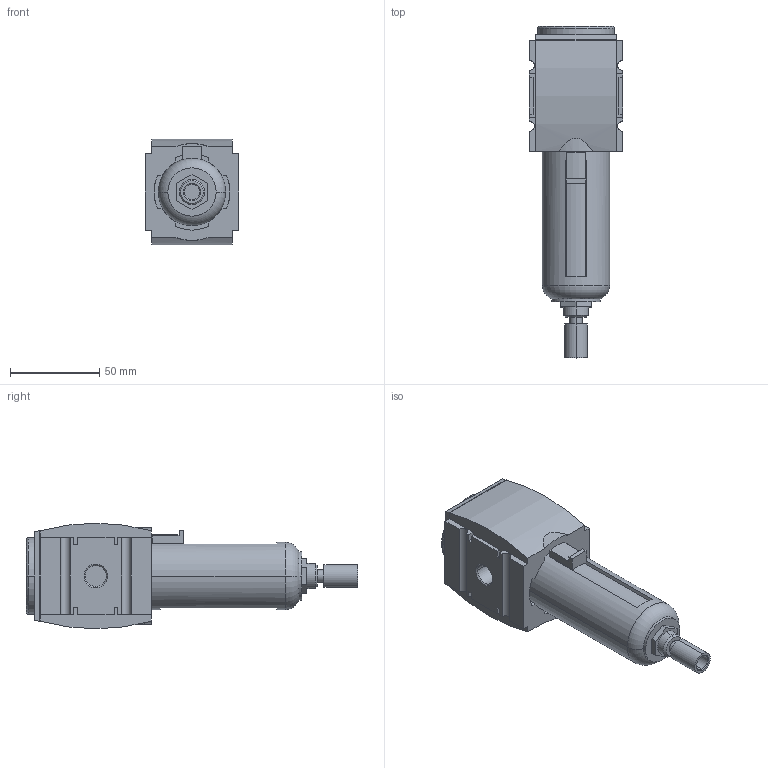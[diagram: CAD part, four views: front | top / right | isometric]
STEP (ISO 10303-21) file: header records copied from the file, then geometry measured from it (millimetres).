
FILE_DESCRIPTION((''),'2;1');
FILE_NAME('R412006038_ASM','2019-08-08T',('hug2hc'),(''),'CREO PARAMETRIC BY PTC INC, 2016260','CREO PARAMETRIC BY PTC INC, 2016260','');
FILE_SCHEMA(('CONFIG_CONTROL_DESIGN'));
Length unit declared in the file: millimetre
Products named in the file (4): R412006038; AS2_RES_FILTER_FULLY; AS2_TOP-COVER; R412006038_ASM
Assembly tree (3 placements, depth 2):
  R412006038_ASM
    R412006038
    AS2_RES_FILTER_FULLY
    AS2_TOP-COVER
Bounding box: 52 x 185.5 x 59 mm (x, y, z)
Volume: 272090.5 mm3; surface area: 46707.4 mm2
Topology: 3 solids, 3 shells, 244 faces, 666 edges, 436 vertices
Faces by surface type: plane 143, cylinder 75, cone 20, torus 6
Entity records: 8002 total; most frequent: CARTESIAN_POINT 1496, DIRECTION 1372, ORIENTED_EDGE 1332, EDGE_CURVE 666, AXIS2_PLACEMENT_3D 473, VERTEX_POINT 436, VECTOR 426, LINE 426
